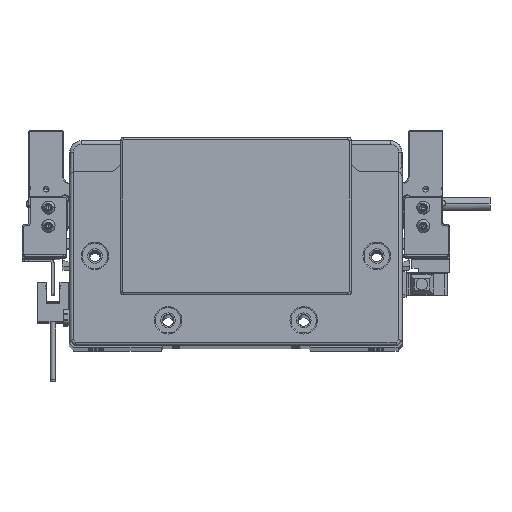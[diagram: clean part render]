
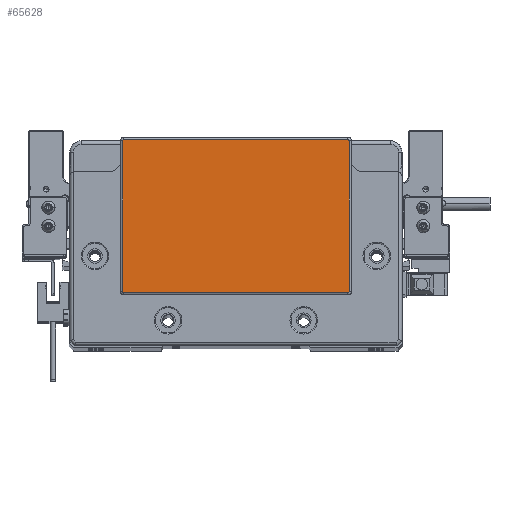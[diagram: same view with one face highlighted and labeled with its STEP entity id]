
A CAD part, top view. The second image highlights one B-rep face of the part: STEP entity #65628.
In plain terms, the highlighted planar face has unit normal (0, 0, 1) as drawn and (0, 0, -1) by its records, which use the part's own axes.
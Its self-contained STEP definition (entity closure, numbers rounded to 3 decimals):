
#466 = DIRECTION ( 'NONE',  ( 0., 0., -1. ) ) ;
#969 = VERTEX_POINT ( 'NONE', #24236 ) ;
#1698 = AXIS2_PLACEMENT_3D ( 'NONE', #81400, #7913, #21727 ) ;
#7869 = CIRCLE ( 'NONE', #51881, 0.5 ) ;
#7913 = DIRECTION ( 'NONE',  ( 0., 0., -1. ) ) ;
#10967 = CARTESIAN_POINT ( 'NONE',  ( 49.25, -21.8, -2. ) ) ;
#12625 = ORIENTED_EDGE ( 'NONE', *, *, #38407, .T. ) ;
#12898 = DIRECTION ( 'NONE',  ( 0., 0., -1. ) ) ;
#16138 = CARTESIAN_POINT ( 'NONE',  ( -49.25, 43.8, -2. ) ) ;
#16920 = CARTESIAN_POINT ( 'NONE',  ( -48.75, 44.3, -2. ) ) ;
#16995 = DIRECTION ( 'NONE',  ( -1., 0., 0. ) ) ;
#17395 = DIRECTION ( 'NONE',  ( 0., 1., 0. ) ) ;
#17766 = EDGE_CURVE ( 'NONE', #26584, #51867, #38986, .T. ) ;
#20267 = LINE ( 'NONE', #32820, #60580 ) ;
#21727 = DIRECTION ( 'NONE',  ( -1., 0., 0. ) ) ;
#22210 = AXIS2_PLACEMENT_3D ( 'NONE', #33794, #38591, #45503 ) ;
#23636 = CIRCLE ( 'NONE', #71960, 0.5 ) ;
#24088 = CARTESIAN_POINT ( 'NONE',  ( -49.25, 43.8, -2. ) ) ;
#24236 = CARTESIAN_POINT ( 'NONE',  ( 49.25, 43.8, -2. ) ) ;
#24350 = LINE ( 'NONE', #10967, #59685 ) ;
#25878 = DIRECTION ( 'NONE',  ( -1., 0., 0. ) ) ;
#26584 = VERTEX_POINT ( 'NONE', #81798 ) ;
#27709 = CARTESIAN_POINT ( 'NONE',  ( 0., 0., -2. ) ) ;
#28943 = VERTEX_POINT ( 'NONE', #16920 ) ;
#31037 = VERTEX_POINT ( 'NONE', #78104 ) ;
#32820 = CARTESIAN_POINT ( 'NONE',  ( -48.75, -22.3, -2. ) ) ;
#33486 = DIRECTION ( 'NONE',  ( -1., 0., 0. ) ) ;
#33794 = CARTESIAN_POINT ( 'NONE',  ( 48.75, -21.8, -2. ) ) ;
#36489 = LINE ( 'NONE', #63694, #61102 ) ;
#36687 = VECTOR ( 'NONE', #17395, 1000. ) ;
#38223 = ORIENTED_EDGE ( 'NONE', *, *, #47333, .T. ) ;
#38407 = EDGE_CURVE ( 'NONE', #53957, #74236, #59493, .T. ) ;
#38591 = DIRECTION ( 'NONE',  ( 0., 0., -1. ) ) ;
#38986 = CIRCLE ( 'NONE', #1698, 0.5 ) ;
#39142 = CARTESIAN_POINT ( 'NONE',  ( -48.75, 43.8, -2. ) ) ;
#39726 = VERTEX_POINT ( 'NONE', #24088 ) ;
#39839 = PLANE ( 'NONE',  #50222 ) ;
#40696 = FACE_OUTER_BOUND ( 'NONE', #55610, .T. ) ;
#41328 = ORIENTED_EDGE ( 'NONE', *, *, #45757, .T. ) ;
#43155 = CARTESIAN_POINT ( 'NONE',  ( 48.75, -22.3, -2. ) ) ;
#43387 = LINE ( 'NONE', #16138, #36687 ) ;
#43632 = EDGE_CURVE ( 'NONE', #74236, #26584, #20267, .T. ) ;
#44749 = CARTESIAN_POINT ( 'NONE',  ( -49.25, -21.8, -2. ) ) ;
#45211 = DIRECTION ( 'NONE',  ( 0., 0., -1. ) ) ;
#45503 = DIRECTION ( 'NONE',  ( -1., 0., 0. ) ) ;
#45757 = EDGE_CURVE ( 'NONE', #39726, #28943, #23636, .T. ) ;
#47319 = EDGE_CURVE ( 'NONE', #969, #53957, #24350, .T. ) ;
#47333 = EDGE_CURVE ( 'NONE', #28943, #31037, #36489, .T. ) ;
#48168 = CARTESIAN_POINT ( 'NONE',  ( 48.75, 43.8, -2. ) ) ;
#50222 = AXIS2_PLACEMENT_3D ( 'NONE', #27709, #466, #60563 ) ;
#51867 = VERTEX_POINT ( 'NONE', #44749 ) ;
#51881 = AXIS2_PLACEMENT_3D ( 'NONE', #48168, #12898, #25878 ) ;
#53957 = VERTEX_POINT ( 'NONE', #73054 ) ;
#55610 = EDGE_LOOP ( 'NONE', ( #66253, #12625, #56084, #57498, #74845, #41328, #38223, #68411 ) ) ;
#56084 = ORIENTED_EDGE ( 'NONE', *, *, #43632, .T. ) ;
#57498 = ORIENTED_EDGE ( 'NONE', *, *, #17766, .T. ) ;
#58077 = DIRECTION ( 'NONE',  ( 0., -1., 0. ) ) ;
#59493 = CIRCLE ( 'NONE', #22210, 0.5 ) ;
#59685 = VECTOR ( 'NONE', #58077, 1000. ) ;
#60563 = DIRECTION ( 'NONE',  ( -1., 0., 0. ) ) ;
#60580 = VECTOR ( 'NONE', #16995, 1000. ) ;
#61102 = VECTOR ( 'NONE', #77522, 1000. ) ;
#63694 = CARTESIAN_POINT ( 'NONE',  ( 48.75, 44.3, -2. ) ) ;
#65628 = ADVANCED_FACE ( 'NONE', ( #40696 ), #39839, .T. ) ;
#66253 = ORIENTED_EDGE ( 'NONE', *, *, #47319, .T. ) ;
#68411 = ORIENTED_EDGE ( 'NONE', *, *, #79540, .T. ) ;
#68920 = EDGE_CURVE ( 'NONE', #51867, #39726, #43387, .T. ) ;
#71960 = AXIS2_PLACEMENT_3D ( 'NONE', #39142, #45211, #33486 ) ;
#73054 = CARTESIAN_POINT ( 'NONE',  ( 49.25, -21.8, -2. ) ) ;
#74236 = VERTEX_POINT ( 'NONE', #43155 ) ;
#74845 = ORIENTED_EDGE ( 'NONE', *, *, #68920, .T. ) ;
#77522 = DIRECTION ( 'NONE',  ( 1., 0., 0. ) ) ;
#78104 = CARTESIAN_POINT ( 'NONE',  ( 48.75, 44.3, -2. ) ) ;
#79540 = EDGE_CURVE ( 'NONE', #31037, #969, #7869, .T. ) ;
#81400 = CARTESIAN_POINT ( 'NONE',  ( -48.75, -21.8, -2. ) ) ;
#81798 = CARTESIAN_POINT ( 'NONE',  ( -48.75, -22.3, -2. ) ) ;
